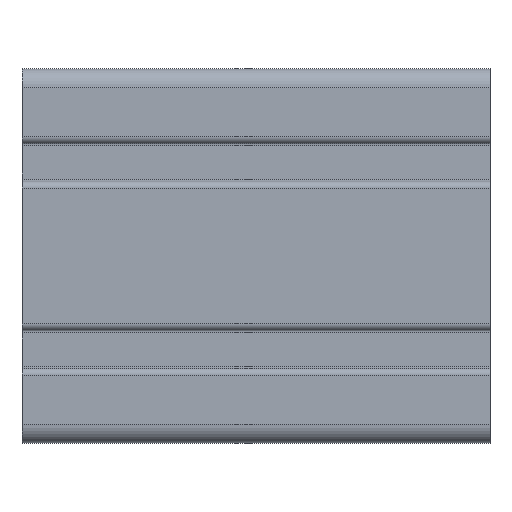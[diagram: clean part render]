
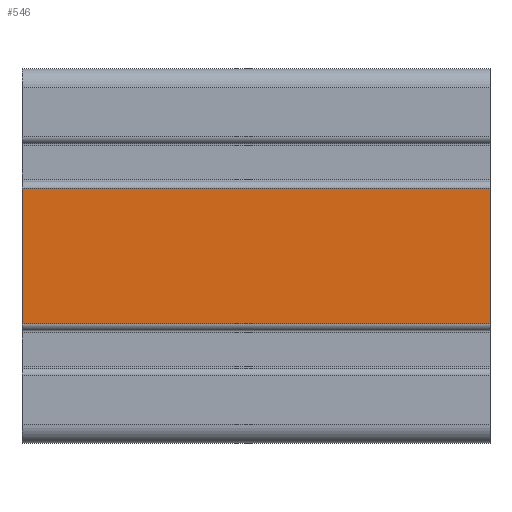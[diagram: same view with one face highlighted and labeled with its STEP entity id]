
A CAD part, left-side view. The second image highlights one B-rep face of the part: STEP entity #546.
In plain terms, the highlighted planar face has unit normal (-1, 0, 0).
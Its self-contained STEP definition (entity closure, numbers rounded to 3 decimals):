
#240 = CARTESIAN_POINT ( 'NONE',  ( -40., -50., -14.5 ) ) ;
#418 = DIRECTION ( 'NONE',  ( 0., 0., -1. ) ) ;
#546 = ADVANCED_FACE ( 'NONE', ( #7336 ), #5632, .F. ) ;
#1300 = CARTESIAN_POINT ( 'NONE',  ( -40., 50., -14.5 ) ) ;
#1388 = CARTESIAN_POINT ( 'NONE',  ( -40., 50., -14.5 ) ) ;
#1465 = VECTOR ( 'NONE', #2502, 1000. ) ;
#2217 = VERTEX_POINT ( 'NONE', #240 ) ;
#2502 = DIRECTION ( 'NONE',  ( 0., 0., 1. ) ) ;
#2663 = DIRECTION ( 'NONE',  ( 0., -1., 0. ) ) ;
#2892 = DIRECTION ( 'NONE',  ( 1., 0., 0. ) ) ;
#2982 = ORIENTED_EDGE ( 'NONE', *, *, #11021, .T. ) ;
#3513 = VECTOR ( 'NONE', #2663, 1000. ) ;
#3539 = VERTEX_POINT ( 'NONE', #4311 ) ;
#3645 = ORIENTED_EDGE ( 'NONE', *, *, #9252, .F. ) ;
#3773 = DIRECTION ( 'NONE',  ( 0., 0., 1. ) ) ;
#3900 = ORIENTED_EDGE ( 'NONE', *, *, #9409, .F. ) ;
#4030 = CARTESIAN_POINT ( 'NONE',  ( -40., 50., 14.5 ) ) ;
#4311 = CARTESIAN_POINT ( 'NONE',  ( -40., -50., 14.5 ) ) ;
#5020 = VECTOR ( 'NONE', #7582, 1000. ) ;
#5116 = LINE ( 'NONE', #10647, #3513 ) ;
#5435 = VERTEX_POINT ( 'NONE', #1388 ) ;
#5632 = PLANE ( 'NONE',  #7188 ) ;
#6830 = CARTESIAN_POINT ( 'NONE',  ( -40., 50., -14.5 ) ) ;
#7188 = AXIS2_PLACEMENT_3D ( 'NONE', #1300, #2892, #418 ) ;
#7273 = LINE ( 'NONE', #10812, #10144 ) ;
#7336 = FACE_OUTER_BOUND ( 'NONE', #11352, .T. ) ;
#7582 = DIRECTION ( 'NONE',  ( 0., -1., 0. ) ) ;
#7979 = CARTESIAN_POINT ( 'NONE',  ( -40., 50., 14.5 ) ) ;
#8143 = EDGE_CURVE ( 'NONE', #5435, #2217, #5116, .T. ) ;
#9252 = EDGE_CURVE ( 'NONE', #10867, #3539, #10205, .T. ) ;
#9409 = EDGE_CURVE ( 'NONE', #5435, #10867, #9686, .T. ) ;
#9686 = LINE ( 'NONE', #6830, #1465 ) ;
#9739 = ORIENTED_EDGE ( 'NONE', *, *, #8143, .T. ) ;
#10144 = VECTOR ( 'NONE', #3773, 1000. ) ;
#10205 = LINE ( 'NONE', #4030, #5020 ) ;
#10647 = CARTESIAN_POINT ( 'NONE',  ( -40., 50., -14.5 ) ) ;
#10812 = CARTESIAN_POINT ( 'NONE',  ( -40., -50., -14.5 ) ) ;
#10867 = VERTEX_POINT ( 'NONE', #7979 ) ;
#11021 = EDGE_CURVE ( 'NONE', #2217, #3539, #7273, .T. ) ;
#11352 = EDGE_LOOP ( 'NONE', ( #2982, #3645, #3900, #9739 ) ) ;
